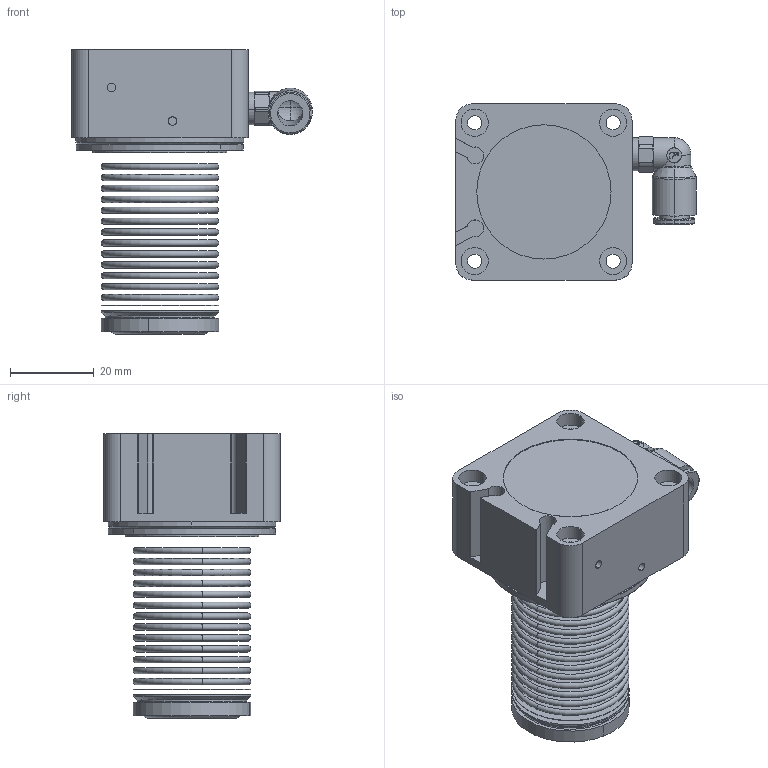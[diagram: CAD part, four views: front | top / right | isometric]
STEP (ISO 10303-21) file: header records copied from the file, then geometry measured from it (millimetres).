
FILE_DESCRIPTION (( 'STEP AP203' ), '1' );
FILE_NAME ('NAC-KF16-·§Ð¾1.STEP', '2023-04-19T01:30:49', ( '' ), ( '' ), 'SwSTEP 2.0', 'SolidWorks 2023', '' );
FILE_SCHEMA (( 'CONFIG_CONTROL_DESIGN' ));
Length unit declared in the file: millimetre
Products named in the file (1): NAC-KF16-阀芯1
Bounding box: 57.3 x 42 x 67.8 mm (x, y, z)
Surface area: 23790.4 mm2 (no closed solid volume)
Topology: 0 solids, 22 shells, 238 faces, 618 edges, 423 vertices
Faces by surface type: cylinder 87, plane 76, torus 54, cone 19, sphere 2
Entity records: 7773 total; most frequent: CARTESIAN_POINT 1592, DIRECTION 1448, ORIENTED_EDGE 1088, AXIS2_PLACEMENT_3D 638, EDGE_CURVE 617, VERTEX_POINT 423, CIRCLE 399, EDGE_LOOP 301
